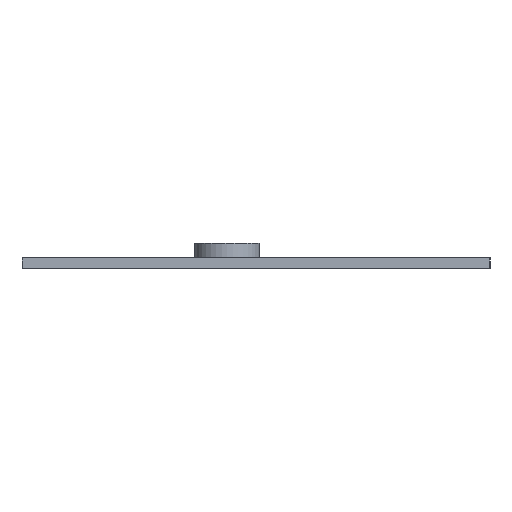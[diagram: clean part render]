
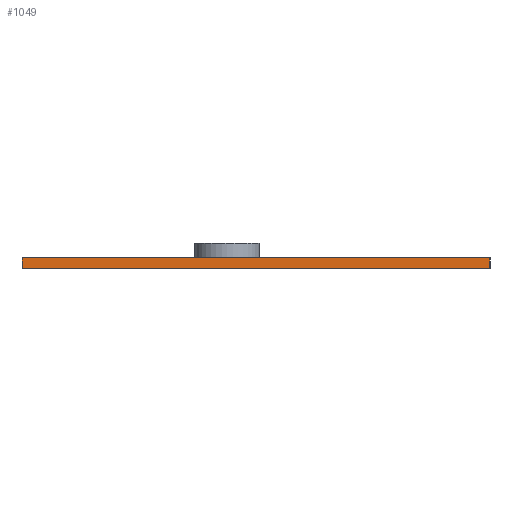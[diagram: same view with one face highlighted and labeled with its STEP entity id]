
A CAD part, left-side view. The second image highlights one B-rep face of the part: STEP entity #1049.
In plain terms, the highlighted planar face has unit normal (-1, 0, 0).
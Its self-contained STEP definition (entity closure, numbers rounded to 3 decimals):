
#94 = PLANE('',#95);
#95 = AXIS2_PLACEMENT_3D('',#96,#97,#98);
#96 = CARTESIAN_POINT('',(-93.,-65.,46.));
#97 = DIRECTION('',(0.,0.,1.));
#98 = DIRECTION('',(1.,0.,0.));
#183 = PLANE('',#184);
#184 = AXIS2_PLACEMENT_3D('',#185,#186,#187);
#185 = CARTESIAN_POINT('',(-93.,-65.,43.));
#186 = DIRECTION('',(0.,0.,1.));
#187 = DIRECTION('',(1.,0.,0.));
#199 = EDGE_CURVE('',#200,#202,#204,.T.);
#200 = VERTEX_POINT('',#201);
#201 = CARTESIAN_POINT('',(-93.,-65.,43.));
#202 = VERTEX_POINT('',#203);
#203 = CARTESIAN_POINT('',(-93.,65.,43.));
#204 = SURFACE_CURVE('',#205,(#209,#216),.PCURVE_S1.);
#205 = LINE('',#206,#207);
#206 = CARTESIAN_POINT('',(-93.,-65.,43.));
#207 = VECTOR('',#208,1.);
#208 = DIRECTION('',(0.,1.,0.));
#209 = PCURVE('',#183,#210);
#210 = DEFINITIONAL_REPRESENTATION('',(#211),#215);
#211 = LINE('',#212,#213);
#212 = CARTESIAN_POINT('',(0.,0.));
#213 = VECTOR('',#214,1.);
#214 = DIRECTION('',(0.,1.));
#215 = ( GEOMETRIC_REPRESENTATION_CONTEXT(2) 
PARAMETRIC_REPRESENTATION_CONTEXT() REPRESENTATION_CONTEXT('2D SPACE',''
  ) );
#216 = PCURVE('',#217,#222);
#217 = PLANE('',#218);
#218 = AXIS2_PLACEMENT_3D('',#219,#220,#221);
#219 = CARTESIAN_POINT('',(-93.,-65.,43.));
#220 = DIRECTION('',(1.,0.,0.));
#221 = DIRECTION('',(0.,0.,1.));
#222 = DEFINITIONAL_REPRESENTATION('',(#223),#227);
#223 = LINE('',#224,#225);
#224 = CARTESIAN_POINT('',(0.,0.));
#225 = VECTOR('',#226,1.);
#226 = DIRECTION('',(0.,-1.));
#227 = ( GEOMETRIC_REPRESENTATION_CONTEXT(2) 
PARAMETRIC_REPRESENTATION_CONTEXT() REPRESENTATION_CONTEXT('2D SPACE',''
  ) );
#245 = PLANE('',#246);
#246 = AXIS2_PLACEMENT_3D('',#247,#248,#249);
#247 = CARTESIAN_POINT('',(-93.,-65.,43.));
#248 = DIRECTION('',(0.,1.,0.));
#249 = DIRECTION('',(0.,0.,1.));
#299 = PLANE('',#300);
#300 = AXIS2_PLACEMENT_3D('',#301,#302,#303);
#301 = CARTESIAN_POINT('',(-93.,65.,43.));
#302 = DIRECTION('',(0.,1.,0.));
#303 = DIRECTION('',(0.,0.,1.));
#956 = EDGE_CURVE('',#200,#957,#959,.T.);
#957 = VERTEX_POINT('',#958);
#958 = CARTESIAN_POINT('',(-93.,-65.,46.));
#959 = SURFACE_CURVE('',#960,(#964,#971),.PCURVE_S1.);
#960 = LINE('',#961,#962);
#961 = CARTESIAN_POINT('',(-93.,-65.,43.));
#962 = VECTOR('',#963,1.);
#963 = DIRECTION('',(0.,0.,1.));
#964 = PCURVE('',#245,#965);
#965 = DEFINITIONAL_REPRESENTATION('',(#966),#970);
#966 = LINE('',#967,#968);
#967 = CARTESIAN_POINT('',(0.,0.));
#968 = VECTOR('',#969,1.);
#969 = DIRECTION('',(1.,0.));
#970 = ( GEOMETRIC_REPRESENTATION_CONTEXT(2) 
PARAMETRIC_REPRESENTATION_CONTEXT() REPRESENTATION_CONTEXT('2D SPACE',''
  ) );
#971 = PCURVE('',#217,#972);
#972 = DEFINITIONAL_REPRESENTATION('',(#973),#977);
#973 = LINE('',#974,#975);
#974 = CARTESIAN_POINT('',(0.,0.));
#975 = VECTOR('',#976,1.);
#976 = DIRECTION('',(1.,0.));
#977 = ( GEOMETRIC_REPRESENTATION_CONTEXT(2) 
PARAMETRIC_REPRESENTATION_CONTEXT() REPRESENTATION_CONTEXT('2D SPACE',''
  ) );
#1005 = EDGE_CURVE('',#202,#1006,#1008,.T.);
#1006 = VERTEX_POINT('',#1007);
#1007 = CARTESIAN_POINT('',(-93.,65.,46.));
#1008 = SURFACE_CURVE('',#1009,(#1013,#1020),.PCURVE_S1.);
#1009 = LINE('',#1010,#1011);
#1010 = CARTESIAN_POINT('',(-93.,65.,43.));
#1011 = VECTOR('',#1012,1.);
#1012 = DIRECTION('',(0.,0.,1.));
#1013 = PCURVE('',#299,#1014);
#1014 = DEFINITIONAL_REPRESENTATION('',(#1015),#1019);
#1015 = LINE('',#1016,#1017);
#1016 = CARTESIAN_POINT('',(0.,0.));
#1017 = VECTOR('',#1018,1.);
#1018 = DIRECTION('',(1.,0.));
#1019 = ( GEOMETRIC_REPRESENTATION_CONTEXT(2) 
PARAMETRIC_REPRESENTATION_CONTEXT() REPRESENTATION_CONTEXT('2D SPACE',''
  ) );
#1020 = PCURVE('',#217,#1021);
#1021 = DEFINITIONAL_REPRESENTATION('',(#1022),#1026);
#1022 = LINE('',#1023,#1024);
#1023 = CARTESIAN_POINT('',(0.,-130.));
#1024 = VECTOR('',#1025,1.);
#1025 = DIRECTION('',(1.,0.));
#1026 = ( GEOMETRIC_REPRESENTATION_CONTEXT(2) 
PARAMETRIC_REPRESENTATION_CONTEXT() REPRESENTATION_CONTEXT('2D SPACE',''
  ) );
#1049 = ADVANCED_FACE('',(#1050),#217,.F.);
#1050 = FACE_BOUND('',#1051,.F.);
#1051 = EDGE_LOOP('',(#1052,#1053,#1054,#1055));
#1052 = ORIENTED_EDGE('',*,*,#956,.F.);
#1053 = ORIENTED_EDGE('',*,*,#199,.T.);
#1054 = ORIENTED_EDGE('',*,*,#1005,.T.);
#1055 = ORIENTED_EDGE('',*,*,#1056,.F.);
#1056 = EDGE_CURVE('',#957,#1006,#1057,.T.);
#1057 = SURFACE_CURVE('',#1058,(#1062,#1069),.PCURVE_S1.);
#1058 = LINE('',#1059,#1060);
#1059 = CARTESIAN_POINT('',(-93.,-65.,46.));
#1060 = VECTOR('',#1061,1.);
#1061 = DIRECTION('',(0.,1.,0.));
#1062 = PCURVE('',#217,#1063);
#1063 = DEFINITIONAL_REPRESENTATION('',(#1064),#1068);
#1064 = LINE('',#1065,#1066);
#1065 = CARTESIAN_POINT('',(3.,0.));
#1066 = VECTOR('',#1067,1.);
#1067 = DIRECTION('',(0.,-1.));
#1068 = ( GEOMETRIC_REPRESENTATION_CONTEXT(2) 
PARAMETRIC_REPRESENTATION_CONTEXT() REPRESENTATION_CONTEXT('2D SPACE',''
  ) );
#1069 = PCURVE('',#94,#1070);
#1070 = DEFINITIONAL_REPRESENTATION('',(#1071),#1075);
#1071 = LINE('',#1072,#1073);
#1072 = CARTESIAN_POINT('',(0.,0.));
#1073 = VECTOR('',#1074,1.);
#1074 = DIRECTION('',(0.,1.));
#1075 = ( GEOMETRIC_REPRESENTATION_CONTEXT(2) 
PARAMETRIC_REPRESENTATION_CONTEXT() REPRESENTATION_CONTEXT('2D SPACE',''
  ) );
